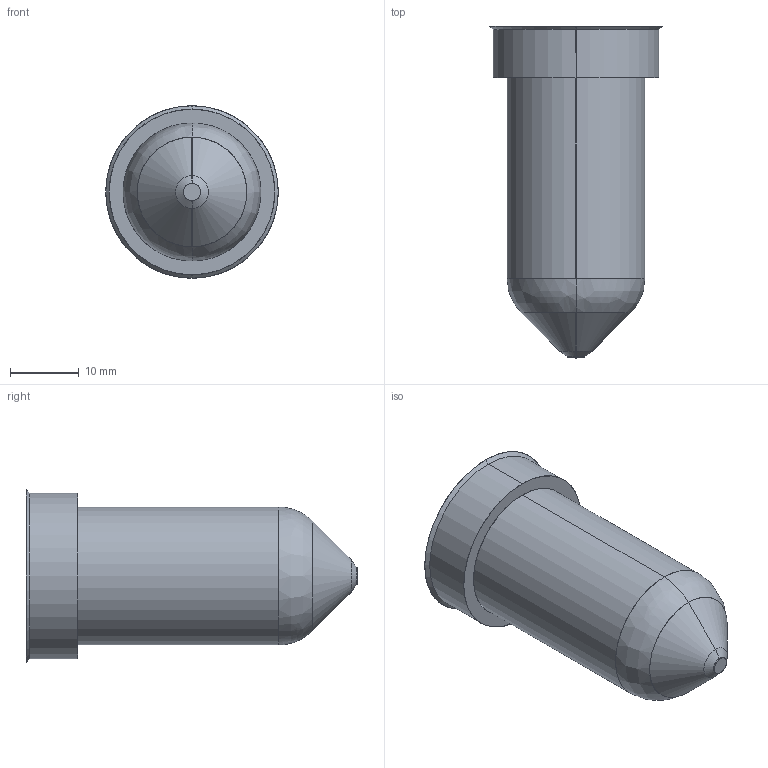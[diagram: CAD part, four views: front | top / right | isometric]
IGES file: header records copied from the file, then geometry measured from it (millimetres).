
Start section: SolidWorks IGES file using analytic representation for surfaces
Global section: file name: C:\Documents and Settings\ws-20\Desktop\TEM\Sede UGGS2520-M-0 C-48 L-80 Ød-2.5.IGS; native system: SolidWorks 2012; preprocessor: SolidWorks 2012; author: ws-20; date: 120516.094016; units: millimetre
Bounding box: 25 x 48.11 x 25 mm (x, y, z)
Surface area: 3639 mm2 (no closed solid volume)
Topology: 0 solids, 0 shells, 17 faces, 184 edges, 184 vertices
Faces by surface type: revolution 12, bspline 5
